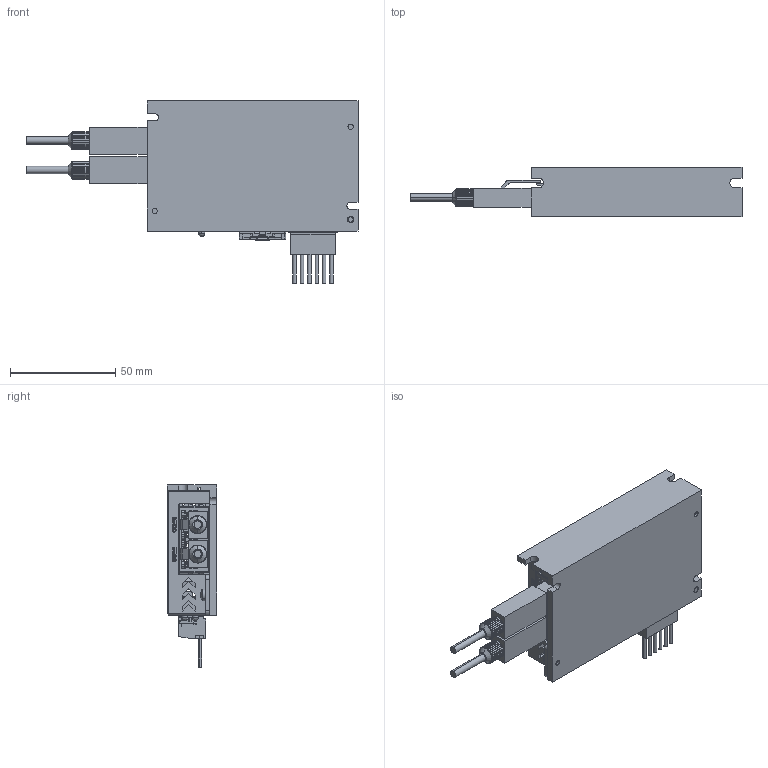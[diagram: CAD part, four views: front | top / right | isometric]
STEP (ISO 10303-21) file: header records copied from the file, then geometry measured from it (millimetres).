
FILE_DESCRIPTION (( 'STEP AP214' ), '1' );
FILE_NAME ('STF03-EC侧面网口设计EFDR好烦好气_D.STEP', '2017-09-27T05:57:06', ( '' ), ( '' ), 'SwSTEP 2.0', 'SolidWorks 2015', '' );
FILE_SCHEMA (( 'AUTOMOTIVE_DESIGN' ));
Length unit declared in the file: millimetre
Products named in the file (1): STF03-EC侧面网口设计EFDR好烦好气_D
Bounding box: 157.6 x 23.5 x 86.56 mm (x, y, z)
Surface area: 49921.8 mm2 (no closed solid volume)
Topology: 0 solids, 45 shells, 1115 faces, 4816 edges, 3714 vertices
Faces by surface type: plane 838, cylinder 206, bspline 58, cone 7, sphere 6
Entity records: 66503 total; most frequent: CARTESIAN_POINT 16164, ORIENTED_EDGE 7206, DIRECTION 7201, EDGE_CURVE 4812, VERTEX_POINT 3714, LINE 3363, VECTOR 3363, AXIS2_PLACEMENT_3D 1919
